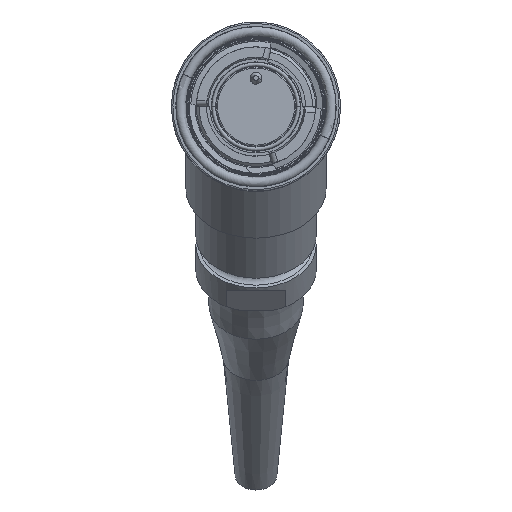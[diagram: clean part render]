
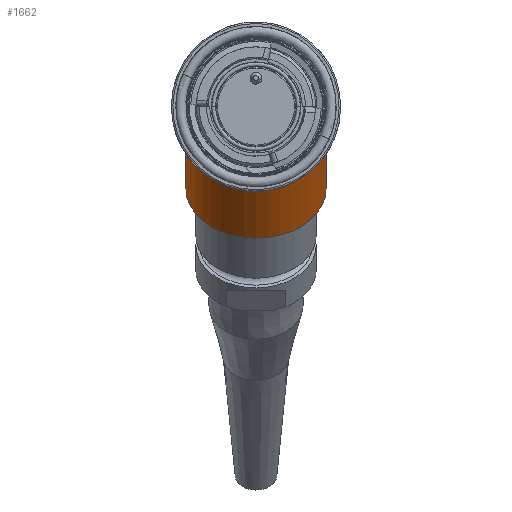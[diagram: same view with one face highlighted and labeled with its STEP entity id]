
A CAD part, top view. The second image highlights one B-rep face of the part: STEP entity #1662.
In plain terms, the highlighted cylindrical face has radius 11.748 mm (diameter 23.495 mm), a partial arc.
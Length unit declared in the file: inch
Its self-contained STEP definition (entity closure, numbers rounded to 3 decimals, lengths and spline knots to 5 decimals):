
#410 = DIRECTION ( 'NONE',  ( 0., 0.707, 0.707 ) ) ;
#541 = EDGE_CURVE ( 'NONE', #2342, #9749, #8240, .T. ) ;
#544 = VERTEX_POINT ( 'NONE', #10857 ) ;
#649 = DIRECTION ( 'NONE',  ( 0., 0.707, 0.707 ) ) ;
#706 = CARTESIAN_POINT ( 'NONE',  ( 0., -0.53768, -2.38551 ) ) ;
#863 = CARTESIAN_POINT ( 'NONE',  ( 0.4625, -0.20361, -2.05144 ) ) ;
#1165 = EDGE_CURVE ( 'NONE', #3453, #544, #8327, .T. ) ;
#1548 = CARTESIAN_POINT ( 'NONE',  ( -0.4625, -0.53768, -2.38551 ) ) ;
#1660 = DIRECTION ( 'NONE',  ( 1., 0., 0. ) ) ;
#1662 = ADVANCED_FACE ( 'NONE', ( #8478 ), #10984, .T. ) ;
#1774 = AXIS2_PLACEMENT_3D ( 'NONE', #706, #5053, #11153 ) ;
#2199 = AXIS2_PLACEMENT_3D ( 'NONE', #10724, #2891, #1660 ) ;
#2342 = VERTEX_POINT ( 'NONE', #5454 ) ;
#2555 = EDGE_CURVE ( 'NONE', #3453, #2342, #7059, .T. ) ;
#2848 = VECTOR ( 'NONE', #6507, 39.37008 ) ;
#2891 = DIRECTION ( 'NONE',  ( 0., 0.707, 0.707 ) ) ;
#3453 = VERTEX_POINT ( 'NONE', #1548 ) ;
#3961 = CARTESIAN_POINT ( 'NONE',  ( 0.4625, -0.18969, -2.03752 ) ) ;
#3964 = AXIS2_PLACEMENT_3D ( 'NONE', #8590, #649, #8423 ) ;
#4451 = ORIENTED_EDGE ( 'NONE', *, *, #2555, .T. ) ;
#5053 = DIRECTION ( 'NONE',  ( 0., 0.707, 0.707 ) ) ;
#5136 = CIRCLE ( 'NONE', #2199, 0.4625 ) ;
#5454 = CARTESIAN_POINT ( 'NONE',  ( 0.4625, -0.53768, -2.38551 ) ) ;
#5529 = ORIENTED_EDGE ( 'NONE', *, *, #1165, .F. ) ;
#6507 = DIRECTION ( 'NONE',  ( 0., 0.707, 0.707 ) ) ;
#7059 = CIRCLE ( 'NONE', #1774, 0.4625 ) ;
#7274 = EDGE_CURVE ( 'NONE', #544, #9749, #5136, .T. ) ;
#8240 = LINE ( 'NONE', #3961, #8857 ) ;
#8327 = LINE ( 'NONE', #9187, #2848 ) ;
#8423 = DIRECTION ( 'NONE',  ( 1., 0., 0. ) ) ;
#8478 = FACE_OUTER_BOUND ( 'NONE', #8916, .T. ) ;
#8590 = CARTESIAN_POINT ( 'NONE',  ( 0., -0.18969, -2.03752 ) ) ;
#8857 = VECTOR ( 'NONE', #410, 39.37008 ) ;
#8916 = EDGE_LOOP ( 'NONE', ( #5529, #4451, #9259, #10700 ) ) ;
#9187 = CARTESIAN_POINT ( 'NONE',  ( -0.4625, -0.18969, -2.03752 ) ) ;
#9259 = ORIENTED_EDGE ( 'NONE', *, *, #541, .T. ) ;
#9749 = VERTEX_POINT ( 'NONE', #863 ) ;
#10700 = ORIENTED_EDGE ( 'NONE', *, *, #7274, .F. ) ;
#10724 = CARTESIAN_POINT ( 'NONE',  ( 0., -0.20361, -2.05144 ) ) ;
#10857 = CARTESIAN_POINT ( 'NONE',  ( -0.4625, -0.20361, -2.05144 ) ) ;
#10984 = CYLINDRICAL_SURFACE ( 'NONE', #3964, 0.4625 ) ;
#11153 = DIRECTION ( 'NONE',  ( 1., 0., 0. ) ) ;
